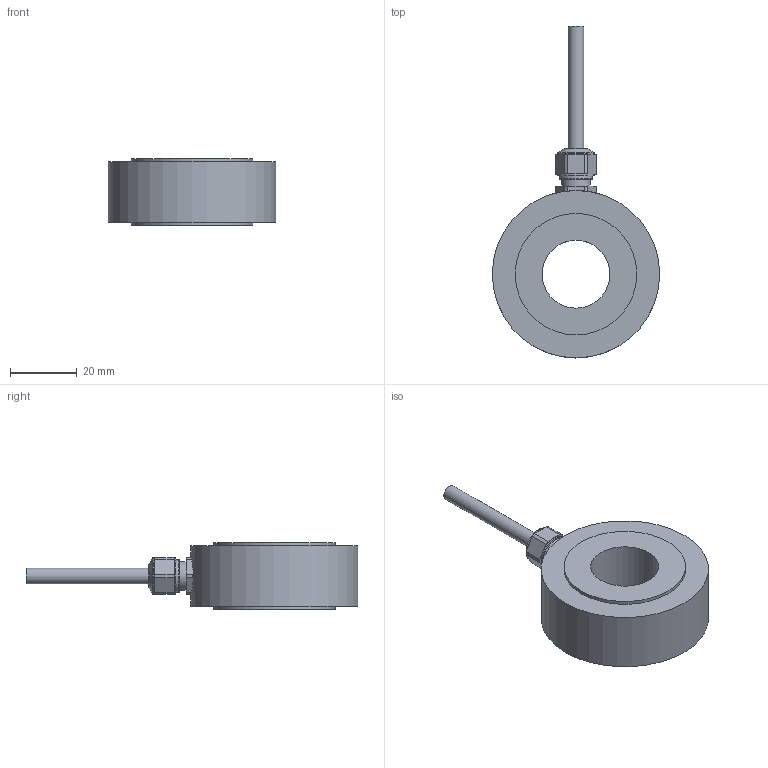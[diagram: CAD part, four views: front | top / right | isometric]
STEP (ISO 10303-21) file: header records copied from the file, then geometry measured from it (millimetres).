
FILE_DESCRIPTION(/* description */ (''),/* implementation_level */ '2;1');
FILE_NAME(/* name */ 'I:/New Datasheets/STEP Models/Pending models/CCG-160kN-003-000.step',/* time_stamp */ '2019-08-16T13:39:50+01:00',/* author */ (''),/* organization */ (''),/* preprocessor_version */ 'ST-DEVELOPER v18',/* originating_system */ 'Autodesk Translation Framework v8.6.0.1094',/* authorisation */ '');
FILE_SCHEMA (('AUTOMOTIVE_DESIGN { 1 0 10303 214 3 1 1 }'));
Length unit declared in the file: millimetre
Products named in the file (2): CCG-160kN-003-000 -; CCG-160kN-003-000
Assembly tree (1 placements, depth 2):
  CCG-160kN-003-000 -
    CCG-160kN-003-000
Bounding box: 50 x 99.13 x 20 mm (x, y, z)
Volume: 32330.7 mm3; surface area: 9581.7 mm2
Topology: 1 solids, 5 shells, 87 faces, 216 edges, 151 vertices
Faces by surface type: plane 34, cylinder 32, cone 12, torus 9
Full cylindrical faces by diameter (mm): 4.6 x2, 5.1 x1, 5.2 x1, 6.466 x2, 6.7 x1, 6.779 x2, 8.596 x1, 9 x1, 9.15 x1, 9.794 x1, 10.9 x2, 12.5 x1, 20.3 x1, 36.3 x2, 50 x1
Entity records: 2766 total; most frequent: CARTESIAN_POINT 515, DIRECTION 514, ORIENTED_EDGE 430, AXIS2_PLACEMENT_3D 223, EDGE_CURVE 215, VERTEX_POINT 151, CIRCLE 133, EDGE_LOOP 108
